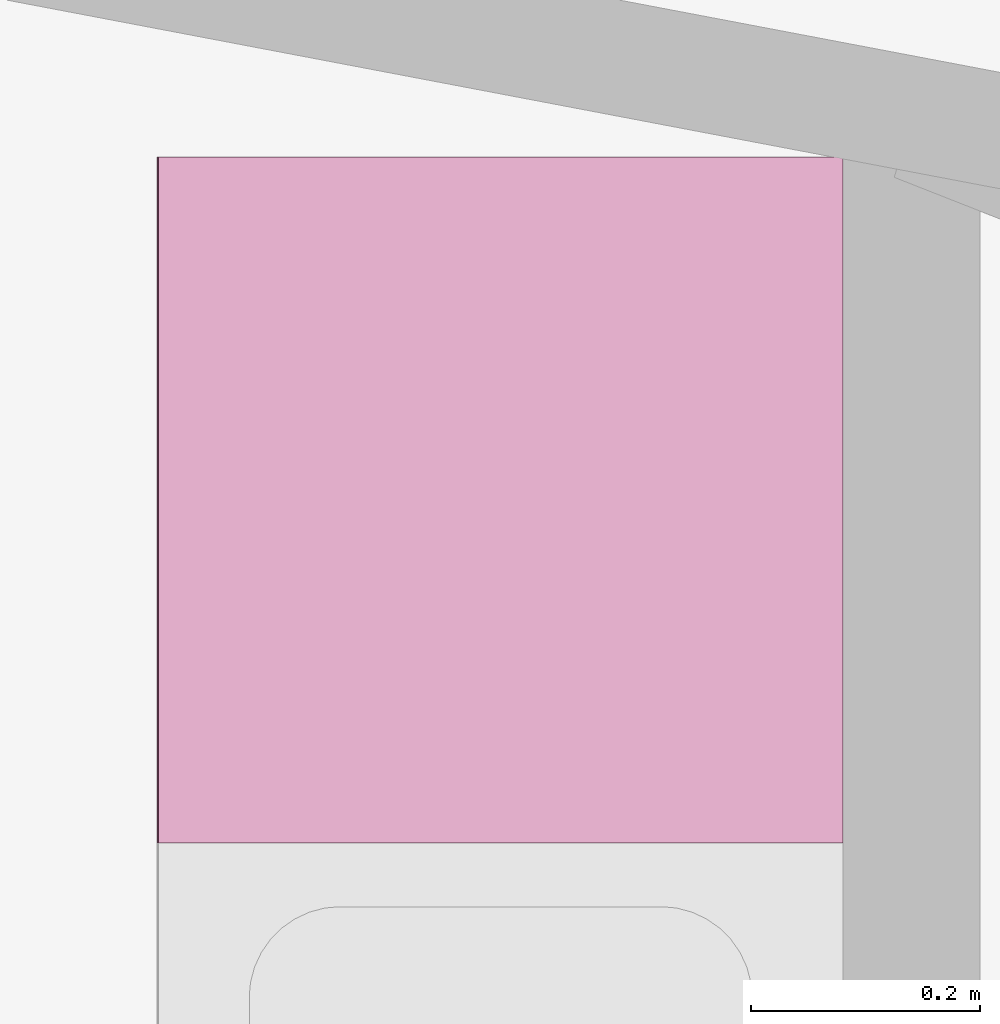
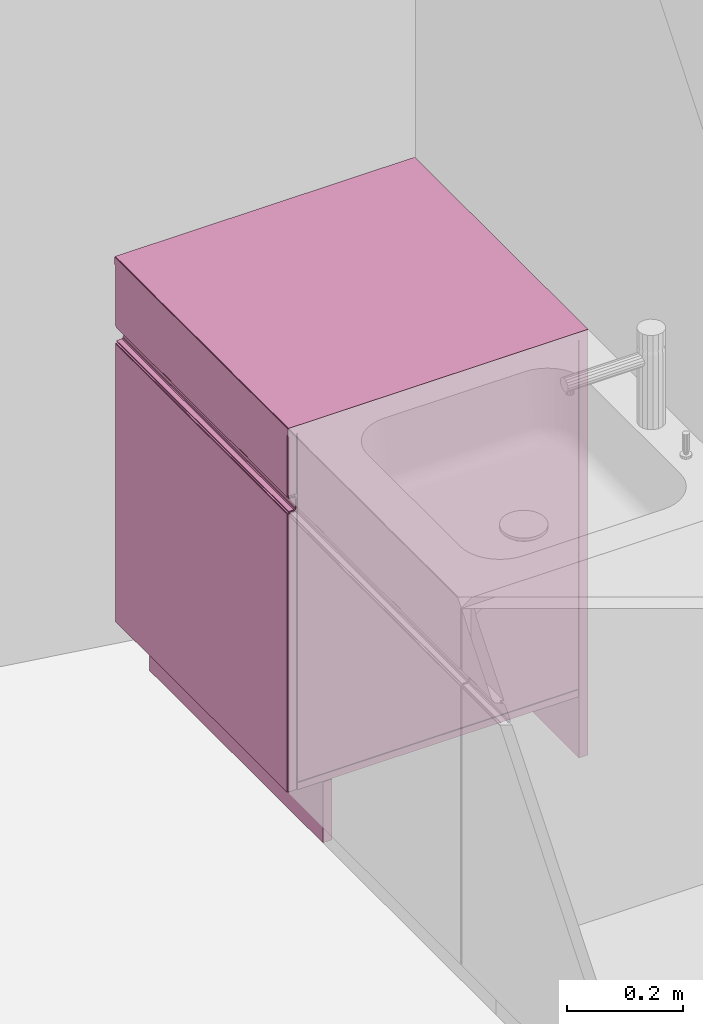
"""IFC4 building model written with IfcOpenShell, lengths in metres."""

from ifc_helpers import new_model, entity, si_unit, converted_unit, derived_unit, frame, origin, place, context, subcontext, project, spatial, faceted_brep, element, save


model = new_model("IFC4")

# Units and contexts
model_context = context("Model", 3, precision=1e-05, world=origin())
body_context = subcontext(model_context, "Body", "Model", "MODEL_VIEW")
ifc_project = project(units=[si_unit("LENGTHUNIT", "METRE"), si_unit("AREAUNIT", "SQUARE_METRE"), si_unit("VOLUMEUNIT", "CUBIC_METRE"), si_unit("MASSUNIT", "GRAM", prefix="KILO"), converted_unit("PLANEANGLEUNIT", "DEGREE", entity("IfcPlaneAngleMeasure", 0.0174532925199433), si_unit("PLANEANGLEUNIT", "RADIAN"), dimensions=[0, 0, 0, 0, 0, 0, 0]), derived_unit("THERMALTRANSMITTANCEUNIT", [(si_unit("POWERUNIT", "WATT"), 1), (si_unit("THERMODYNAMICTEMPERATUREUNIT", "KELVIN"), -1), (si_unit("LENGTHUNIT", "METRE"), -2)]), derived_unit("VOLUMETRICFLOWRATEUNIT", [(si_unit("LENGTHUNIT", "METRE"), 3), (converted_unit("TIMEUNIT", "hour", entity("IfcTimeMeasure", 3600.0), si_unit("TIMEUNIT", "SECOND"), dimensions=[0, 0, 1, 0, 0, 0, 0]), -1), (si_unit("LENGTHUNIT", "METRE"), -1)])], contexts=[model_context])

# Building, storeys
building_placement = place(None, origin())
building = spatial("IfcBuilding", under=ifc_project, at=building_placement, Name="HABITATGE PLURIFAMILIAR", CompositionType="ELEMENT")
storey_1_placement = place(building_placement, frame((0.0, 0.0, 3.35)))
storey_1 = spatial("IfcBuildingStorey", under=building, at=storey_1_placement, Name="PLANTA  ALTELL", CompositionType="ELEMENT", Elevation=3.35)
storey_2_placement = place(storey_1_placement, origin())
storey_2 = spatial("IfcBuildingStorey", under=storey_1, at=storey_2_placement, Name="NOU", CompositionType="PARTIAL")

# Furniture
furniture_placement = place(storey_2_placement, frame((406.271931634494, 22.7195914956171, 0.0)))
element("IfcFurniture", 1, at=furniture_placement, inside=storey_2, Name="Taulells_PA", context=body_context, shape_type="Brep", body=[
    faceted_brep([(0.600000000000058, 0.0, 0.0), (0.600000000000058, 0.600000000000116, 0.0), (0.582000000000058, 0.600000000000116, 0.0), (0.582000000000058, 0.0, 0.0), (0.582000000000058, 0.0, 0.883800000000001), (0.582000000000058, 0.600000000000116, 0.883800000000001), (0.600000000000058, 0.600000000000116, 0.883800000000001), (0.600000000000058, 0.0, 0.883800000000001)], [[[0, 1, 2, 3]], [[4, 5, 6, 7]], [[3, 4, 7, 0]], [[2, 5, 4, 3]], [[1, 6, 5, 2]], [[0, 7, 6, 1]]], orient=[[False], [False], [False], [False], [False], [False]]),
    faceted_brep([(0.0180000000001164, 0.00200000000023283, 0.755800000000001), (0.00200000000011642, 0.00200000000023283, 0.755800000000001), (0.00200000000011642, 0.00200000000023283, 0.883800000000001), (0.0180000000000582, 0.00200000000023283, 0.883800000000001), (0.00165270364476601, 0.00203038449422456, 0.755452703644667), (0.00165270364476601, 0.00203038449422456, 0.883800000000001), (0.00131595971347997, 0.00212061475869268, 0.75511595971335), (0.00131595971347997, 0.00212061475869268, 0.883800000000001), (0.00100000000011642, 0.00226794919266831, 0.754800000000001), (0.00100000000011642, 0.00226794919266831, 0.883800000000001), (0.000714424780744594, 0.00246791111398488, 0.754514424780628), (0.000714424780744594, 0.00246791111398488, 0.883800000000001), (0.000591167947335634, 0.00259116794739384, 0.754391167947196), (0.000467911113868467, 0.0027144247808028, 0.754514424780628), (0.000467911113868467, 0.0027144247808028, 0.883800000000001), (0.000267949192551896, 0.00300000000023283, 0.754800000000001), (0.000267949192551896, 0.00300000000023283, 0.883800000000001), (0.000120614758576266, 0.00331595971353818, 0.75511595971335), (0.000120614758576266, 0.00331595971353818, 0.883800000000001), (3.03844941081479e-05, 0.00365270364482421, 0.755452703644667), (3.03844941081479e-05, 0.00365270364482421, 0.883800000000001), (0.0, 0.00400000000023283, 0.755800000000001), (0.0, 0.00400000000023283, 0.883800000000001), (0.0, 0.596000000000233, 0.755800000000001), (0.0, 0.596000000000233, 0.883800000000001), (0.00200000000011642, 0.598000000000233, 0.755800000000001), (0.0180000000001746, 0.598000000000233, 0.755800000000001), (0.0180000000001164, 0.598000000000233, 0.883800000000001), (0.00200000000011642, 0.598000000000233, 0.883800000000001), (0.00165270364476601, 0.597969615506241, 0.883800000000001), (0.00165270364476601, 0.597969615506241, 0.755452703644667), (0.00131595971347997, 0.597879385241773, 0.883800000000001), (0.00131595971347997, 0.597879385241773, 0.75511595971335), (0.00100000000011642, 0.597732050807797, 0.883800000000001), (0.00100000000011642, 0.597732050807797, 0.754800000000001), (0.000714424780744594, 0.597532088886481, 0.883800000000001), (0.000714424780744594, 0.597532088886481, 0.754514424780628), (0.000467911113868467, 0.597285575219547, 0.883800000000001), (0.000467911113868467, 0.597285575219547, 0.754514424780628), (0.000591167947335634, 0.597408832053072, 0.754391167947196), (0.000267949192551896, 0.597000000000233, 0.883800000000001), (0.000267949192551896, 0.597000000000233, 0.754800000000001), (0.000120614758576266, 0.596684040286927, 0.883800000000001), (0.000120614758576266, 0.596684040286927, 0.75511595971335), (3.03844941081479e-05, 0.596347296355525, 0.883800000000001), (3.03844941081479e-05, 0.596347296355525, 0.755452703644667), (0.0180000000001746, 0.596000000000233, 0.753800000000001), (0.00200000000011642, 0.596000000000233, 0.753800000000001), (0.00200000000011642, 0.00400000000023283, 0.753800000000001), (0.0180000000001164, 0.00400000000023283, 0.753800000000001), (0.00165270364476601, 0.00365270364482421, 0.753830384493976), (0.0180000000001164, 0.00365270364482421, 0.753830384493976), (0.00131595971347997, 0.00331595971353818, 0.753920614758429), (0.0180000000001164, 0.00331595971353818, 0.753920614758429), (0.00100000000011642, 0.00300000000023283, 0.754067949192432), (0.0180000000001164, 0.00300000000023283, 0.754067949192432), (0.000714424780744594, 0.0027144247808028, 0.754267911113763), (0.0180000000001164, 0.0027144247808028, 0.754267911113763), (0.0180000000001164, 0.00246791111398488, 0.754514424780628), (0.0180000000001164, 0.00226794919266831, 0.754800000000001), (0.0180000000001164, 0.00212061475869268, 0.75511595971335), (0.0180000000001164, 0.00203038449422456, 0.755452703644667), (0.00165270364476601, 0.596347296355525, 0.753830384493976), (0.00131595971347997, 0.596684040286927, 0.753920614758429), (0.00100000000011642, 0.597000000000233, 0.754067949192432), (0.000714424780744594, 0.597285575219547, 0.754267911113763), (0.0180000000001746, 0.596347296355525, 0.753830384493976), (0.0180000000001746, 0.596684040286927, 0.753920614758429), (0.0180000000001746, 0.597000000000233, 0.754067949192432), (0.0180000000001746, 0.597285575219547, 0.754267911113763), (0.0180000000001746, 0.597532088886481, 0.754514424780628), (0.0180000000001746, 0.597732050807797, 0.754800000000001), (0.0180000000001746, 0.597879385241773, 0.75511595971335), (0.0180000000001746, 0.597969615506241, 0.755452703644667)], [[[0, 1, 2, 3]], [[2, 1, 4, 5]], [[5, 4, 6, 7]], [[7, 6, 8, 9]], [[9, 8, 10, 11]], [[11, 10, 12, 13, 14]], [[14, 13, 15, 16]], [[16, 15, 17, 18]], [[18, 17, 19, 20]], [[20, 19, 21, 22]], [[22, 21, 23, 24]], [[25, 26, 27, 28]], [[29, 30, 25, 28]], [[31, 32, 30, 29]], [[33, 34, 32, 31]], [[35, 36, 34, 33]], [[37, 38, 39, 36, 35]], [[40, 41, 38, 37]], [[42, 43, 41, 40]], [[44, 45, 43, 42]], [[24, 23, 45, 44]], [[46, 47, 48, 49]], [[49, 48, 50, 51]], [[51, 50, 52, 53]], [[53, 52, 54, 55]], [[55, 54, 56, 57]], [[57, 56, 12, 10, 58]], [[58, 10, 8, 59]], [[59, 8, 6, 60]], [[60, 6, 4, 61]], [[61, 4, 1, 0]], [[47, 62, 50, 48]], [[62, 63, 52, 50]], [[63, 64, 54, 52]], [[64, 65, 56, 54]], [[65, 39, 38, 13, 12, 56]], [[38, 41, 15, 13]], [[41, 43, 17, 15]], [[43, 45, 19, 17]], [[45, 23, 21, 19]], [[66, 62, 47, 46]], [[67, 63, 62, 66]], [[68, 64, 63, 67]], [[69, 65, 64, 68]], [[70, 36, 39, 65, 69]], [[71, 34, 36, 70]], [[72, 32, 34, 71]], [[73, 30, 32, 72]], [[26, 25, 30, 73]], [[27, 26, 73, 72, 71, 70, 69, 68, 67, 66, 46, 49, 51, 53, 55, 57, 58, 59, 60, 61, 0, 3]], [[2, 5, 7, 9, 11, 14, 16, 18, 20, 22, 24, 44, 42, 40, 37, 35, 33, 31, 29, 28, 27, 3]]], orient=[[False], [False], [False], [False], [False], [False], [False], [False], [False], [False], [False], [False], [False], [False], [False], [False], [False], [False], [False], [False], [False], [False], [False], [False], [False], [False], [False], [False], [False], [False], [False], [False], [False], [False], [False], [False], [False], [False], [False], [False], [False], [False], [False], [False], [False], [False], [False], [False], [False], [False], [False]]),
    faceted_brep([(0.0180000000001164, 0.00200000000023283, 0.130000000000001), (0.00200000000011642, 0.00200000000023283, 0.130000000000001), (0.00200000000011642, 0.00200000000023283, 0.716800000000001), (0.0180000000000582, 0.00200000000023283, 0.716800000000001), (0.00165270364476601, 0.00203038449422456, 0.130000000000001), (0.00165270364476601, 0.00203038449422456, 0.717147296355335), (0.00131595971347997, 0.00212061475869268, 0.130000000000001), (0.00131595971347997, 0.00212061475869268, 0.717484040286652), (0.00100000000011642, 0.00226794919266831, 0.130000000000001), (0.00100000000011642, 0.00226794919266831, 0.717800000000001), (0.000714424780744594, 0.00246791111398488, 0.130000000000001), (0.000714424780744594, 0.00246791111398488, 0.718085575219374), (0.000467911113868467, 0.0027144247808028, 0.130000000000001), (0.000467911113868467, 0.0027144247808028, 0.718085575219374), (0.000591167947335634, 0.00259116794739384, 0.718208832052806), (0.000267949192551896, 0.00300000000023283, 0.130000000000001), (0.000267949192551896, 0.00300000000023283, 0.717800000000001), (0.000120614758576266, 0.00331595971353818, 0.130000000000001), (0.000120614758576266, 0.00331595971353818, 0.717484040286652), (3.03844941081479e-05, 0.00365270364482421, 0.130000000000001), (3.03844941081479e-05, 0.00365270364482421, 0.717147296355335), (0.0, 0.00400000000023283, 0.130000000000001), (0.0, 0.00400000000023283, 0.716800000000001), (0.0, 0.596000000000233, 0.130000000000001), (0.0, 0.596000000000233, 0.716800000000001), (0.00200000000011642, 0.596000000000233, 0.718800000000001), (0.0180000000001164, 0.596000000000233, 0.718800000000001), (0.0180000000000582, 0.00400000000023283, 0.718800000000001), (0.00200000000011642, 0.00400000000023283, 0.718800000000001), (0.00165270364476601, 0.00365270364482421, 0.718769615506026), (0.00165270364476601, 0.596347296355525, 0.718769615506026), (0.00131595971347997, 0.00331595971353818, 0.718679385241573), (0.00131595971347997, 0.596684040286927, 0.718679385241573), (0.00100000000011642, 0.00300000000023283, 0.71853205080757), (0.00100000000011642, 0.597000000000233, 0.71853205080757), (0.000714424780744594, 0.0027144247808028, 0.718332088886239), (0.000714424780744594, 0.597285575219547, 0.718332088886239), (0.000467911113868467, 0.597285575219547, 0.718085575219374), (0.000591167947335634, 0.597408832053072, 0.718208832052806), (0.000267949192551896, 0.597000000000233, 0.717800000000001), (0.000120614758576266, 0.596684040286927, 0.717484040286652), (3.03844941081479e-05, 0.596347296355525, 0.717147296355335), (0.0180000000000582, 0.00365270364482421, 0.718769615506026), (0.0180000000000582, 0.00331595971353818, 0.718679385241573), (0.0180000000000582, 0.00300000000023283, 0.71853205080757), (0.0180000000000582, 0.0027144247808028, 0.718332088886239), (0.0180000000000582, 0.00246791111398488, 0.718085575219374), (0.0180000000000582, 0.00226794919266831, 0.717800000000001), (0.0180000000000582, 0.00212061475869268, 0.717484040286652), (0.0180000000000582, 0.00203038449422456, 0.717147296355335), (0.00200000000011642, 0.598000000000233, 0.130000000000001), (0.0180000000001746, 0.598000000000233, 0.130000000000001), (0.0180000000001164, 0.598000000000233, 0.716800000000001), (0.00200000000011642, 0.598000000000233, 0.716800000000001), (0.0180000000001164, 0.596347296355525, 0.718769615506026), (0.0180000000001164, 0.596684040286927, 0.718679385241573), (0.0180000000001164, 0.597000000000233, 0.71853205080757), (0.0180000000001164, 0.597285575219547, 0.718332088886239), (0.000714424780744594, 0.597532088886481, 0.718085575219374), (0.0180000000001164, 0.597532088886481, 0.718085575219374), (0.00100000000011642, 0.597732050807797, 0.717800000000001), (0.0180000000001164, 0.597732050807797, 0.717800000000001), (0.00131595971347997, 0.597879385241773, 0.717484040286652), (0.0180000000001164, 0.597879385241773, 0.717484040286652), (0.00165270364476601, 0.597969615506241, 0.717147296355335), (0.0180000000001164, 0.597969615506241, 0.717147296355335), (0.00165270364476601, 0.597969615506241, 0.130000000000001), (0.00131595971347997, 0.597879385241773, 0.130000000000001), (0.00100000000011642, 0.597732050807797, 0.130000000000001), (0.000714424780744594, 0.597532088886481, 0.130000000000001), (0.000467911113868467, 0.597285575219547, 0.130000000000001), (0.000267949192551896, 0.597000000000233, 0.130000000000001), (0.000120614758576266, 0.596684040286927, 0.130000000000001), (3.03844941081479e-05, 0.596347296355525, 0.130000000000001)], [[[0, 1, 2, 3]], [[2, 1, 4, 5]], [[5, 4, 6, 7]], [[7, 6, 8, 9]], [[9, 8, 10, 11]], [[11, 10, 12, 13, 14]], [[13, 12, 15, 16]], [[16, 15, 17, 18]], [[18, 17, 19, 20]], [[20, 19, 21, 22]], [[22, 21, 23, 24]], [[25, 26, 27, 28]], [[25, 28, 29, 30]], [[30, 29, 31, 32]], [[32, 31, 33, 34]], [[34, 33, 35, 36]], [[36, 35, 14, 13, 37, 38]], [[37, 13, 16, 39]], [[39, 16, 18, 40]], [[40, 18, 20, 41]], [[41, 20, 22, 24]], [[28, 27, 42, 29]], [[29, 42, 43, 31]], [[31, 43, 44, 33]], [[33, 44, 45, 35]], [[35, 45, 46, 11, 14]], [[11, 46, 47, 9]], [[9, 47, 48, 7]], [[7, 48, 49, 5]], [[5, 49, 3, 2]], [[50, 51, 52, 53]], [[26, 25, 30, 54]], [[54, 30, 32, 55]], [[55, 32, 34, 56]], [[56, 34, 36, 57]], [[57, 36, 38, 58, 59]], [[59, 58, 60, 61]], [[61, 60, 62, 63]], [[63, 62, 64, 65]], [[65, 64, 53, 52]], [[53, 64, 66, 50]], [[64, 62, 67, 66]], [[62, 60, 68, 67]], [[60, 58, 69, 68]], [[58, 38, 37, 70, 69]], [[37, 39, 71, 70]], [[39, 40, 72, 71]], [[40, 41, 73, 72]], [[41, 24, 23, 73]], [[3, 49, 48, 47, 46, 45, 44, 43, 42, 27, 26, 54, 55, 56, 57, 59, 61, 63, 65, 52, 51, 0]], [[1, 0, 51, 50, 66, 67, 68, 69, 70, 71, 72, 73, 23, 21, 19, 17, 15, 12, 10, 8, 6, 4]]], orient=[[False], [False], [False], [False], [False], [False], [False], [False], [False], [False], [False], [False], [False], [False], [False], [False], [False], [False], [False], [False], [False], [False], [False], [False], [False], [False], [False], [False], [False], [False], [False], [False], [False], [False], [False], [False], [False], [False], [False], [False], [False], [False], [False], [False], [False], [False], [False], [False], [False], [False], [False]]),
    faceted_brep([(0.0880000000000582, 0.0, 0.0), (0.0880000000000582, 0.600000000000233, 0.0), (0.0700000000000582, 0.600000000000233, 0.0), (0.0700000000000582, 0.0, 0.0), (0.0700000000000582, 0.0, 0.128800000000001), (0.0700000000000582, 0.600000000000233, 0.128800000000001), (0.0880000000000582, 0.600000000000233, 0.128800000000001), (0.0880000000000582, 0.0, 0.128800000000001)], [[[0, 1, 2, 3]], [[4, 5, 6, 7]], [[5, 4, 3, 2]], [[7, 6, 1, 0]], [[2, 1, 6, 5]], [[0, 3, 4, 7]]], orient=[[False], [False], [False], [False], [False], [False]]),
    faceted_brep([(0.0192000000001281, 0.600000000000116, 0.130000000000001), (0.0192000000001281, 0.0, 0.130000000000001), (0.580800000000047, 0.0, 0.130000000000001), (0.580800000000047, 0.600000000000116, 0.130000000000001), (0.580800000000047, 0.600000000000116, 0.145000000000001), (0.580800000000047, 0.0, 0.145000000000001), (0.0192000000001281, 0.0, 0.145000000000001), (0.0192000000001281, 0.600000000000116, 0.145000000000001)], [[[0, 1, 2, 3]], [[4, 5, 6, 7]], [[3, 4, 7, 0]], [[2, 5, 4, 3]], [[1, 6, 5, 2]], [[0, 7, 6, 1]]], orient=[[False], [False], [False], [False], [False], [False]]),
    faceted_brep([(0.580800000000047, 0.600000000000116, 0.146200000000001), (0.0192000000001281, 0.600000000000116, 0.146200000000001), (0.0192000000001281, 0.582000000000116, 0.146200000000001), (0.580800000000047, 0.582000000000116, 0.146200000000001), (0.580800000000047, 0.582000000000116, 0.883800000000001), (0.0192000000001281, 0.582000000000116, 0.883800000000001), (0.0192000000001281, 0.600000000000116, 0.883800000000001), (0.580800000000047, 0.600000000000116, 0.883800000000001)], [[[0, 1, 2, 3]], [[4, 5, 6, 7]], [[3, 4, 7, 0]], [[2, 5, 4, 3]], [[1, 6, 5, 2]], [[0, 7, 6, 1]]], orient=[[False], [False], [False], [False], [False], [False]]),
    faceted_brep([(0.580800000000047, 0.0, 0.146200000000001), (0.580800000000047, 0.0180000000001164, 0.146200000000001), (0.0192000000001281, 0.0180000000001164, 0.146200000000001), (0.0192000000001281, 0.0, 0.146200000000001), (0.580800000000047, 0.0180000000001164, 0.883800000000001), (0.580800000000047, 0.0, 0.883800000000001), (0.0192000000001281, 0.0, 0.883800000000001), (0.0192000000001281, 0.0180000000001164, 0.883800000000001)], [[[0, 1, 2, 3]], [[4, 5, 6, 7]], [[1, 0, 5, 4]], [[2, 1, 4, 7]], [[3, 2, 7, 6]], [[0, 3, 6, 5]]], orient=[[False], [False], [False], [False], [False], [False]]),
    faceted_brep([(0.00250000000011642, 0.598000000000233, 0.749800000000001), (0.00250000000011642, 0.00200000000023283, 0.749800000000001), (0.0109875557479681, 0.00200000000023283, 0.749800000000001), (0.0109875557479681, 0.598000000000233, 0.749800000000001), (0.0129057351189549, 0.00200000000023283, 0.749418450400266), (0.0129057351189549, 0.598000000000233, 0.749418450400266), (0.0145318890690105, 0.00200000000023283, 0.748331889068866), (0.0145318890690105, 0.598000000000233, 0.748331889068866), (0.0156184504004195, 0.00200000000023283, 0.746705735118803), (0.0156184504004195, 0.598000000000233, 0.746705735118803), (0.0160000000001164, 0.00200000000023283, 0.744787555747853), (0.0160000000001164, 0.598000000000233, 0.744787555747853), (0.0160000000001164, 0.00200000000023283, 0.727812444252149), (0.0160000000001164, 0.598000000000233, 0.727812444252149), (0.0156184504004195, 0.00200000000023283, 0.725894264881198), (0.0156184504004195, 0.598000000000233, 0.725894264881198), (0.0145318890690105, 0.00200000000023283, 0.724268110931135), (0.0145318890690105, 0.598000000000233, 0.724268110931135), (0.0129057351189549, 0.00200000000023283, 0.723181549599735), (0.0129057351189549, 0.598000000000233, 0.723181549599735), (0.0109875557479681, 0.00200000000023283, 0.722800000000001), (0.0109875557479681, 0.598000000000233, 0.722800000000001), (0.00250000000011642, 0.00200000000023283, 0.722800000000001), (0.00250000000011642, 0.598000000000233, 0.722800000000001), (0.00250000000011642, 0.00200000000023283, 0.720800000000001), (0.00250000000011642, 0.598000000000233, 0.720800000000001), (0.0109875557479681, 0.00200000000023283, 0.720800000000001), (0.0109875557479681, 0.598000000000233, 0.720800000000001), (0.0136711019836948, 0.00200000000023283, 0.721333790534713), (0.0136711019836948, 0.598000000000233, 0.721333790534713), (0.0159461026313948, 0.00200000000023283, 0.722853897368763), (0.0159461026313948, 0.598000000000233, 0.722853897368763), (0.017466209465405, 0.00200000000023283, 0.725128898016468), (0.017466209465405, 0.598000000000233, 0.725128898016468), (0.0180000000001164, 0.00200000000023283, 0.727812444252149), (0.0180000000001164, 0.598000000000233, 0.727812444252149), (0.0180000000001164, 0.00200000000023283, 0.744787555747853), (0.0180000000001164, 0.598000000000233, 0.744787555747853), (0.017466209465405, 0.00200000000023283, 0.747471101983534), (0.017466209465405, 0.598000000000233, 0.747471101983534), (0.0159461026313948, 0.00200000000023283, 0.749746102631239), (0.0159461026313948, 0.598000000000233, 0.749746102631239), (0.0136711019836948, 0.00200000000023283, 0.751266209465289), (0.0136711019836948, 0.598000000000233, 0.751266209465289), (0.0109875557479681, 0.00200000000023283, 0.751800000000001), (0.0109875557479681, 0.598000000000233, 0.751800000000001), (0.00250000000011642, 0.00200000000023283, 0.751800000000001), (0.00250000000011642, 0.598000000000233, 0.751800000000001)], [[[0, 1, 2, 3]], [[3, 2, 4, 5]], [[5, 4, 6, 7]], [[7, 6, 8, 9]], [[9, 8, 10, 11]], [[11, 10, 12, 13]], [[13, 12, 14, 15]], [[15, 14, 16, 17]], [[17, 16, 18, 19]], [[19, 18, 20, 21]], [[21, 20, 22, 23]], [[23, 22, 24, 25]], [[25, 24, 26, 27]], [[27, 26, 28, 29]], [[29, 28, 30, 31]], [[31, 30, 32, 33]], [[33, 32, 34, 35]], [[35, 34, 36, 37]], [[37, 36, 38, 39]], [[39, 38, 40, 41]], [[41, 40, 42, 43]], [[43, 42, 44, 45]], [[45, 44, 46, 47]], [[47, 46, 1, 0]], [[0, 3, 5, 7, 9, 11, 13, 15, 17, 19, 21, 23, 25, 27, 29, 31, 33, 35, 37, 39, 41, 43, 45, 47]], [[1, 46, 44, 42, 40, 38, 36, 34, 32, 30, 28, 26, 24, 22, 20, 18, 16, 14, 12, 10, 8, 6, 4, 2]]], orient=[[False], [False], [False], [False], [False], [False], [False], [False], [False], [False], [False], [False], [False], [False], [False], [False], [False], [False], [False], [False], [False], [False], [False], [False], [False], [False]]),
    faceted_brep([(0.0, 0.0, 0.883800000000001), (0.0, 0.6, 0.883800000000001), (0.0, 0.6, 0.898000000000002), (0.0, 0.0, 0.898000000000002), (0.6, 0.6, 0.899999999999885), (0.599999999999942, 0.0, 0.899999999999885), (0.00199999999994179, 0.0, 0.900000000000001), (0.002, 0.6, 0.900000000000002), (3.03844939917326e-05, 0.6, 0.898347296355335), (3.03844939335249e-05, 0.0, 0.898347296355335), (0.000120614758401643, 0.6, 0.898684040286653), (0.000120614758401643, 0.0, 0.898684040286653), (0.000267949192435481, 0.6, 0.899000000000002), (0.000267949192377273, 0.0, 0.899000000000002), (0.000467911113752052, 0.6, 0.899285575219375), (0.000467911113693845, 0.0, 0.899285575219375), (0.000714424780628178, 0.6, 0.89953208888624), (0.000714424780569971, 0.0, 0.89953208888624), (0.001, 0.6, 0.89973205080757), (0.000999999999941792, 0.0, 0.89973205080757), (0.00131595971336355, 0.6, 0.899879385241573), (0.00131595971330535, 0.0, 0.899879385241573), (0.00165270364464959, 0.6, 0.899969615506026), (0.00165270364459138, 0.0, 0.899969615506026), (0.6, 0.6, 0.883800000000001), (0.599999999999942, 0.0, 0.883800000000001)], [[[0, 1, 2, 3]], [[4, 5, 6, 7]], [[8, 9, 3, 2]], [[10, 11, 9, 8]], [[12, 13, 11, 10]], [[14, 15, 13, 12]], [[16, 17, 15, 14]], [[18, 19, 17, 16]], [[20, 21, 19, 18]], [[22, 23, 21, 20]], [[7, 6, 23, 22]], [[4, 7, 22, 20, 18, 16, 14, 12, 10, 8, 2, 1, 24]], [[0, 3, 9, 11, 13, 15, 17, 19, 21, 23, 6, 5, 25]], [[4, 24, 25, 5]], [[1, 0, 25, 24]]], orient=[[False], [False], [False], [False], [False], [False], [False], [False], [False], [False], [False], [False], [False], [False], [False]]),
])

save(model, "model.ifc")
